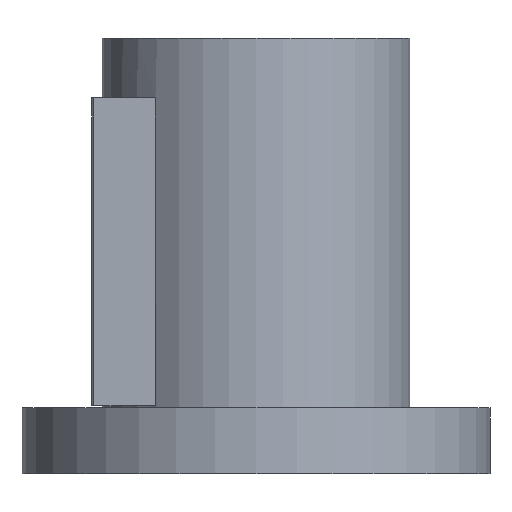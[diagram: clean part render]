
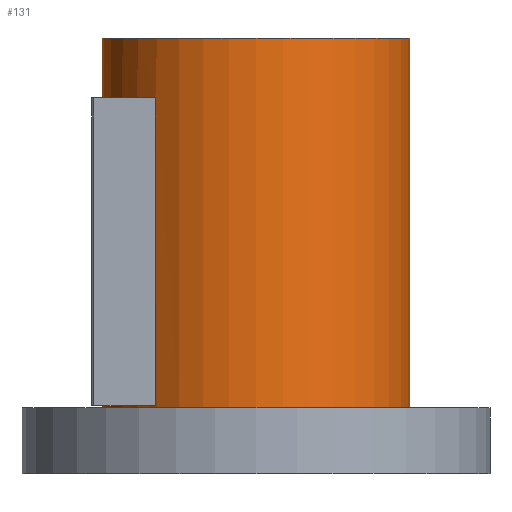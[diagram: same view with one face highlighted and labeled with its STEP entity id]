
A CAD part, front view. The second image highlights one B-rep face of the part: STEP entity #131.
In plain terms, the highlighted cylindrical face has radius 75 mm (diameter 150 mm), a full revolution.
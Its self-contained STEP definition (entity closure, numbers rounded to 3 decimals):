
#131=ADVANCED_FACE('',(#218,#219,#220),#161,.T.);
#161=CYLINDRICAL_SURFACE('',#550,75.);
#174=LINE('',#752,#196);
#175=LINE('',#756,#197);
#196=VECTOR('',#612,1.);
#197=VECTOR('',#615,1.);
#218=FACE_BOUND('',#263,.T.);
#219=FACE_BOUND('',#264,.T.);
#220=FACE_BOUND('',#265,.T.);
#263=EDGE_LOOP('',(#325));
#264=EDGE_LOOP('',(#326));
#265=EDGE_LOOP('',(#327,#328,#329,#330));
#325=ORIENTED_EDGE('',*,*,#467,.F.);
#326=ORIENTED_EDGE('',*,*,#468,.T.);
#327=ORIENTED_EDGE('',*,*,#469,.F.);
#328=ORIENTED_EDGE('',*,*,#470,.F.);
#329=ORIENTED_EDGE('',*,*,#471,.T.);
#330=ORIENTED_EDGE('',*,*,#472,.F.);
#425=VERTEX_POINT('',#746);
#426=VERTEX_POINT('',#748);
#427=VERTEX_POINT('',#750);
#428=VERTEX_POINT('',#751);
#429=VERTEX_POINT('',#753);
#430=VERTEX_POINT('',#755);
#467=EDGE_CURVE('',#425,#425,#517,.T.);
#468=EDGE_CURVE('',#426,#426,#518,.T.);
#469=EDGE_CURVE('',#427,#428,#519,.T.);
#470=EDGE_CURVE('',#429,#427,#174,.T.);
#471=EDGE_CURVE('',#429,#430,#520,.T.);
#472=EDGE_CURVE('',#428,#430,#175,.T.);
#517=CIRCLE('',#546,75.);
#518=CIRCLE('',#547,75.);
#519=CIRCLE('',#548,75.);
#520=CIRCLE('',#549,75.);
#546=AXIS2_PLACEMENT_3D('',#745,#606,#607);
#547=AXIS2_PLACEMENT_3D('',#747,#608,#609);
#548=AXIS2_PLACEMENT_3D('',#749,#610,#611);
#549=AXIS2_PLACEMENT_3D('',#754,#613,#614);
#550=AXIS2_PLACEMENT_3D('',#757,#616,#617);
#606=DIRECTION('',(0.,0.,1.));
#607=DIRECTION('',(1.,0.,0.));
#608=DIRECTION('',(0.,0.,1.));
#609=DIRECTION('',(1.,0.,0.));
#610=DIRECTION('',(0.,0.,-1.));
#611=DIRECTION('',(-1.,0.,0.));
#612=DIRECTION('',(0.,0.,1.));
#613=DIRECTION('',(0.,0.,-1.));
#614=DIRECTION('',(-1.,0.,0.));
#615=DIRECTION('',(0.,0.,-1.));
#616=DIRECTION('',(0.,0.,-1.));
#617=DIRECTION('',(-1.,0.,0.));
#745=CARTESIAN_POINT('',(0.,0.,212.));
#746=CARTESIAN_POINT('',(75.,0.,212.));
#747=CARTESIAN_POINT('',(0.,0.,32.));
#748=CARTESIAN_POINT('',(75.,0.,32.));
#749=CARTESIAN_POINT('',(0.,0.,183.));
#750=CARTESIAN_POINT('',(-49.,-56.78,183.));
#751=CARTESIAN_POINT('',(-49.,56.78,183.));
#752=CARTESIAN_POINT('',(-49.,-56.78,212.));
#753=CARTESIAN_POINT('',(-49.,-56.78,33.));
#754=CARTESIAN_POINT('',(0.,0.,33.));
#755=CARTESIAN_POINT('',(-49.,56.78,33.));
#756=CARTESIAN_POINT('',(-49.,56.78,212.));
#757=CARTESIAN_POINT('',(0.,0.,212.));
